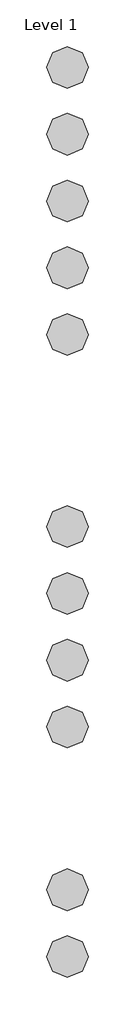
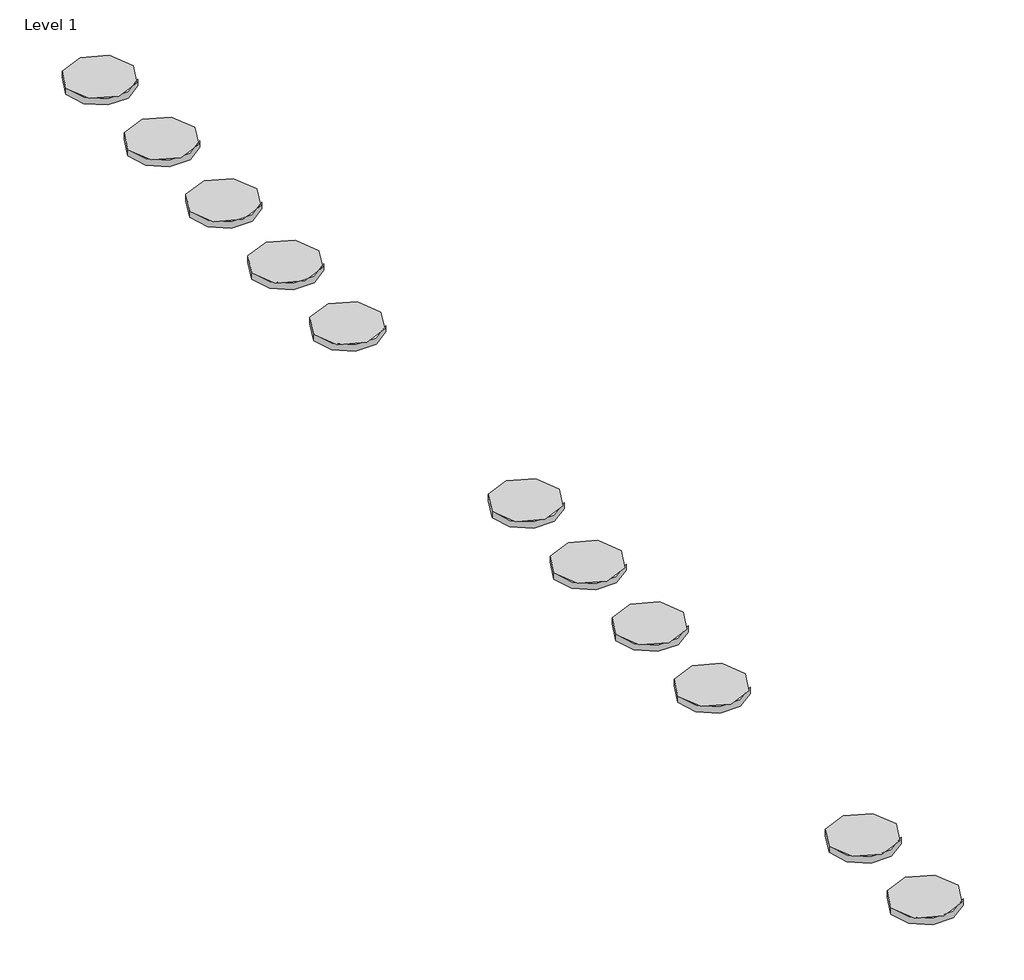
# One storey, incomplete: 11 proxies.
"""IFC4 building model written with IfcOpenShell, lengths in millimetres."""

from ifc_helpers import new_model, si_unit, origin, place, context, project, spatial, transform, mapped, element, save
from components import materialmodel_materialmodel_ac00f72a

model = new_model("IFC4")

# Units and contexts
model_context = context("Model", 3, world=origin())
ifc_project = project(units=[si_unit("LENGTHUNIT", "METRE", prefix="MILLI")], contexts=[model_context])

# Site, building, storey
site = spatial("IfcSite", under=ifc_project)
building = spatial("IfcBuilding", under=site)
storey = spatial("IfcBuildingStorey", under=building, Name="Level 1", Elevation=0.0)

# Proxies
placement = place(None, origin())
materialmodel_materialmodel_shape = materialmodel_materialmodel_ac00f72a(model_context)
element("IfcBuildingElementProxy", 1, Name="MaterialModel : MaterialModel", ObjectType="MaterialModel : MaterialModel", at=placement, inside=storey, context=model_context, shape_type="MappedRepresentation", body=[
    mapped(materialmodel_materialmodel_shape, transform((-10325.5786717, 3460.4556352, 0.0), x_axis=(1.0, 0.0, 0.0), y_axis=(0.0, 1.0, 0.0), z_axis=(0.0, 0.0, 1.0))),
])
element("IfcBuildingElementProxy", 2, Name="MaterialModel : MaterialModel", ObjectType="MaterialModel : MaterialModel", at=placement, inside=storey, context=model_context, shape_type="MappedRepresentation", body=[
    mapped(materialmodel_materialmodel_shape, transform((-10325.5786717, 3140.4556352, 0.0), x_axis=(1.0, 0.0, 0.0), y_axis=(0.0, 1.0, 0.0), z_axis=(0.0, 0.0, 1.0))),
])
element("IfcBuildingElementProxy", 3, Name="MaterialModel : MaterialModel", ObjectType="MaterialModel : MaterialModel", at=placement, inside=storey, context=model_context, shape_type="MappedRepresentation", body=[
    mapped(materialmodel_materialmodel_shape, transform((-10325.5786717, 5200.4556352, 0.0), x_axis=(1.0, 0.0, 0.0), y_axis=(0.0, 1.0, 0.0), z_axis=(0.0, 0.0, 1.0))),
])
element("IfcBuildingElementProxy", 4, Name="MaterialModel : MaterialModel", ObjectType="MaterialModel : MaterialModel", at=placement, inside=storey, context=model_context, shape_type="MappedRepresentation", body=[
    mapped(materialmodel_materialmodel_shape, transform((-10325.5786717, 4880.4556352, 0.0), x_axis=(1.0, 0.0, 0.0), y_axis=(0.0, 1.0, 0.0), z_axis=(0.0, 0.0, 1.0))),
])
element("IfcBuildingElementProxy", 5, Name="MaterialModel : MaterialModel", ObjectType="MaterialModel : MaterialModel", at=placement, inside=storey, context=model_context, shape_type="MappedRepresentation", body=[
    mapped(materialmodel_materialmodel_shape, transform((-10325.5786717, 4560.4556352, 0.0), x_axis=(1.0, 0.0, 0.0), y_axis=(0.0, 1.0, 0.0), z_axis=(0.0, 0.0, 1.0))),
])
element("IfcBuildingElementProxy", 6, Name="MaterialModel : MaterialModel", ObjectType="MaterialModel : MaterialModel", at=placement, inside=storey, context=model_context, shape_type="MappedRepresentation", body=[
    mapped(materialmodel_materialmodel_shape, transform((-10325.5786717, 7400.4556352, 0.0), x_axis=(1.0, 0.0, 0.0), y_axis=(0.0, 1.0, 0.0), z_axis=(0.0, 0.0, 1.0))),
])
element("IfcBuildingElementProxy", 7, Name="MaterialModel : MaterialModel", ObjectType="MaterialModel : MaterialModel", at=placement, inside=storey, context=model_context, shape_type="MappedRepresentation", body=[
    mapped(materialmodel_materialmodel_shape, transform((-10325.5786717, 7080.4556352, 0.0), x_axis=(1.0, 0.0, 0.0), y_axis=(0.0, 1.0, 0.0), z_axis=(0.0, 0.0, 1.0))),
])
element("IfcBuildingElementProxy", 8, Name="MaterialModel : MaterialModel", ObjectType="MaterialModel : MaterialModel", at=placement, inside=storey, context=model_context, shape_type="MappedRepresentation", body=[
    mapped(materialmodel_materialmodel_shape, transform((-10325.5786717, 6760.4556352, 0.0), x_axis=(1.0, 0.0, 0.0), y_axis=(0.0, 1.0, 0.0), z_axis=(0.0, 0.0, 1.0))),
])
element("IfcBuildingElementProxy", 9, Name="MaterialModel : MaterialModel", ObjectType="MaterialModel : MaterialModel", at=placement, inside=storey, context=model_context, shape_type="MappedRepresentation", body=[
    mapped(materialmodel_materialmodel_shape, transform((-10325.5786717, 6440.4556352, 0.0), x_axis=(1.0, 0.0, 0.0), y_axis=(0.0, 1.0, 0.0), z_axis=(0.0, 0.0, 1.0))),
])
element("IfcBuildingElementProxy", 10, Name="MaterialModel : MaterialModel", ObjectType="MaterialModel : MaterialModel", at=placement, inside=storey, context=model_context, shape_type="MappedRepresentation", body=[
    mapped(materialmodel_materialmodel_shape, transform((-10325.5786717, 6120.4556352, 0.0), x_axis=(1.0, 0.0, 0.0), y_axis=(0.0, 1.0, 0.0), z_axis=(0.0, 0.0, 1.0))),
])
element("IfcBuildingElementProxy", 11, Name="MaterialModel : MaterialModel", ObjectType="MaterialModel : MaterialModel", at=placement, inside=storey, context=model_context, shape_type="MappedRepresentation", body=[
    mapped(materialmodel_materialmodel_shape, transform((-10325.5786717, 4240.4556352, 0.0), x_axis=(1.0, 0.0, 0.0), y_axis=(0.0, 1.0, 0.0), z_axis=(0.0, 0.0, 1.0))),
])

save(model, "model.ifc")
